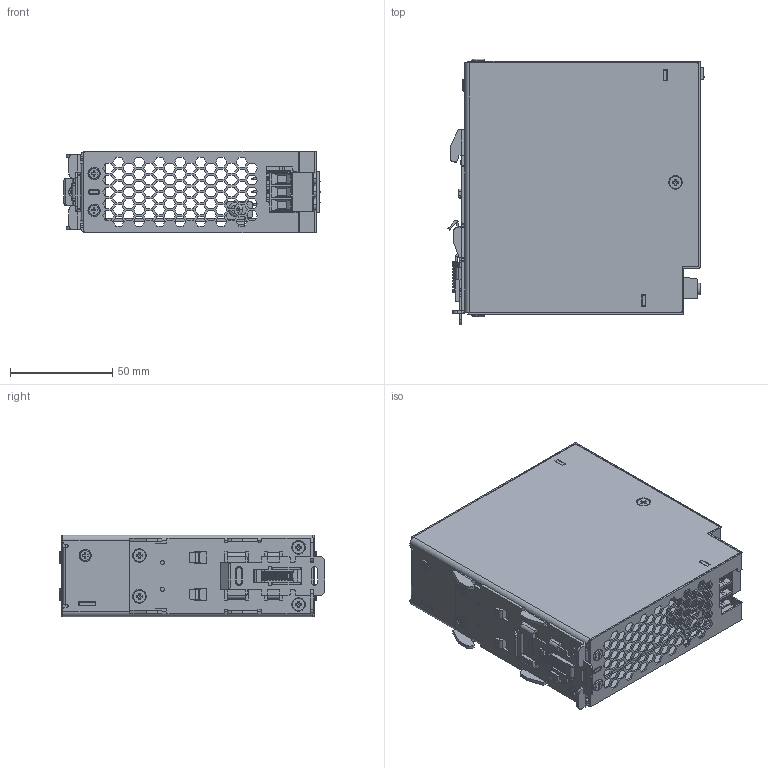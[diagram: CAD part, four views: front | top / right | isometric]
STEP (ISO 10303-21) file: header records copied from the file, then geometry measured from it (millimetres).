
FILE_DESCRIPTION((''),'2;1');
FILE_NAME('DRP-24V100W1NN_ASM','2014-01-17T',('Anothai'),(''),'PRO/ENGINEER BY PARAMETRIC TECHNOLOGY CORPORATION, 2010180','PRO/ENGINEER BY PARAMETRIC TECHNOLOGY CORPORATION, 2010180','');
FILE_SCHEMA(('CONFIG_CONTROL_DESIGN','SHAPE_APPEARANCE_LAYERS_GROUPS'));
Products named in the file (38): 330319820101; 330319810101; 326838880000-1; 346654410101; 346008810000; 346202620000; ASSY_LATCH-NEW_ASM; MAINBOARD_V3; 295_PWB_LAYOUT_T; 295_PWB_LAYOUT_B; 3461420800; INPUT_DC-BOARD; 29681836_INPUT_T; MH150-635M804A302_A4; MH150-635M804A302_A3; MH150-635M804A302_A2; 307662657W_3P_ASM; 29681836_INPUT_B; ASSY_DC_INPUT_ASM; OUTPUT_DC-BOARD; 2968187_OUTPUT_T; 307301377W; 3350940600; 2968187_OUTPUT_B; ASSY_DC_OUTPUT_ASM; EE_LEDXXX; EE_RES_VR-2; 3352085700; ASSY_MAINBOARD_ASM; 3105318101; 324223060101; 324223080000; 3103300600-1; 324223070000; 3105465600; 326842910000; 310_L4; DRP-24V100W1NN_ASM
Assembly tree (47 placements, depth 5):
  DRP-24V100W1NN_ASM
    330319820101
    330319810101
    326838880000-1
    ASSY_LATCH-NEW_ASM
      346654410101
      346008810000
      346202620000
    ASSY_MAINBOARD_ASM
      MAINBOARD_V3
      295_PWB_LAYOUT_T
      295_PWB_LAYOUT_B
      3461420800
      ASSY_DC_INPUT_ASM
        INPUT_DC-BOARD
        29681836_INPUT_T
        307662657W_3P_ASM
          MH150-635M804A302_A4
          MH150-635M804A302_A3  x2
          MH150-635M804A302_A2
        29681836_INPUT_B
      ASSY_DC_OUTPUT_ASM
        OUTPUT_DC-BOARD
        2968187_OUTPUT_T
        307301377W
        3350940600
        2968187_OUTPUT_B
      EE_LEDXXX
      EE_RES_VR-2
      3352085700
    3105318101  x6
    324223060101
    324223080000
    3103300600-1
    324223070000
    3105465600  x5
    326842910000
    310_L4
Bounding box: 125.39 x 130 x 40.08 mm (x, y, z)
Volume: 110047.8 mm3; surface area: 227206.8 mm2
Topology: 36 solids, 36 shells, 6788 faces, 18754 edges, 12167 vertices
Faces by surface type: plane 5436, cylinder 794, extrusion 269, cone 106, bspline 97, torus 80, sphere 6
Entity records: 244672 total; most frequent: CARTESIAN_POINT 45571, ORIENTED_EDGE 36004, DIRECTION 31834, EDGE_CURVE 18002, VECTOR 15684, LINE 15415, VERTEX_POINT 11807, PRESENTATION_STYLE_ASSIGNMENT 9636
